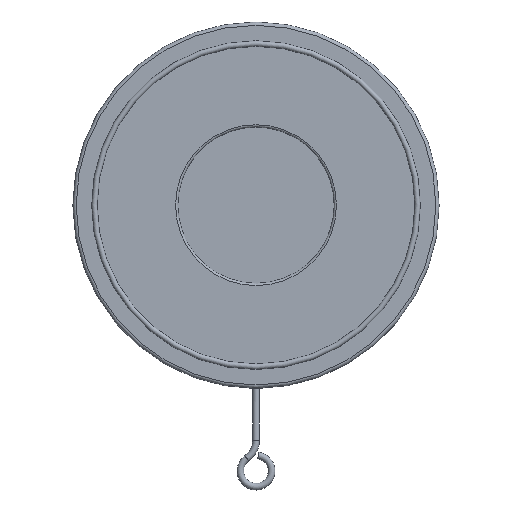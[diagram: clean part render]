
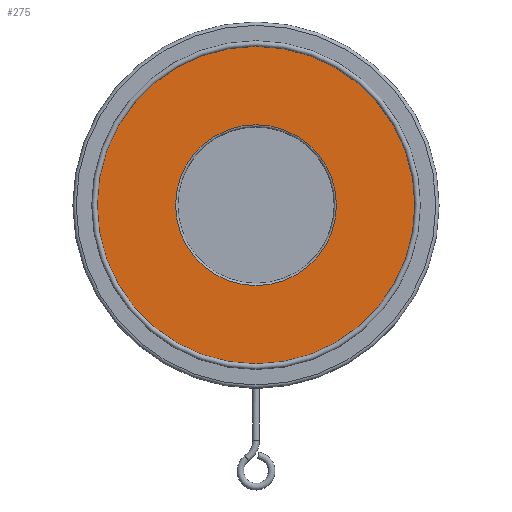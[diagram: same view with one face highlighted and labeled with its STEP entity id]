
A CAD part, top view. The second image highlights one B-rep face of the part: STEP entity #275.
In plain terms, the highlighted planar face has unit normal (0, 0, 1).
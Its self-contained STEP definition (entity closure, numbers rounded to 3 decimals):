
#275 = ADVANCED_FACE( '', ( #744, #745 ), #746, .F. );
#744 = FACE_BOUND( '', #1461, .T. );
#745 = FACE_OUTER_BOUND( '', #1462, .T. );
#746 = PLANE( '', #1463 );
#1461 = EDGE_LOOP( '', ( #2362 ) );
#1462 = EDGE_LOOP( '', ( #2363 ) );
#1463 = AXIS2_PLACEMENT_3D( '', #2364, #2365, #2366 );
#2362 = ORIENTED_EDGE( '', *, *, #4637, .T. );
#2363 = ORIENTED_EDGE( '', *, *, #4638, .T. );
#2364 = CARTESIAN_POINT( '', ( 0., 0., 9. ) );
#2365 = DIRECTION( '', ( 0., 0., -1. ) );
#2366 = DIRECTION( '', ( -1., 0., 0. ) );
#4637 = EDGE_CURVE( '', #5418, #5418, #5419, .T. );
#4638 = EDGE_CURVE( '', #5420, #5420, #5421, .T. );
#5418 = VERTEX_POINT( '', #6751 );
#5419 = CIRCLE( '', #6752, 36. );
#5420 = VERTEX_POINT( '', #6753 );
#5421 = CIRCLE( '', #6754, 71.125 );
#6751 = CARTESIAN_POINT( '', ( -36., 0., 9. ) );
#6752 = AXIS2_PLACEMENT_3D( '', #9199, #9200, #9201 );
#6753 = CARTESIAN_POINT( '', ( 71.125, 0., 9. ) );
#6754 = AXIS2_PLACEMENT_3D( '', #9202, #9203, #9204 );
#9199 = CARTESIAN_POINT( '', ( 0., 0., 9. ) );
#9200 = DIRECTION( '', ( 0., 0., -1. ) );
#9201 = DIRECTION( '', ( -1., 0., 0. ) );
#9202 = CARTESIAN_POINT( '', ( 0., 0., 9. ) );
#9203 = DIRECTION( '', ( 0., 0., 1. ) );
#9204 = DIRECTION( '', ( 1., 0., 0. ) );
